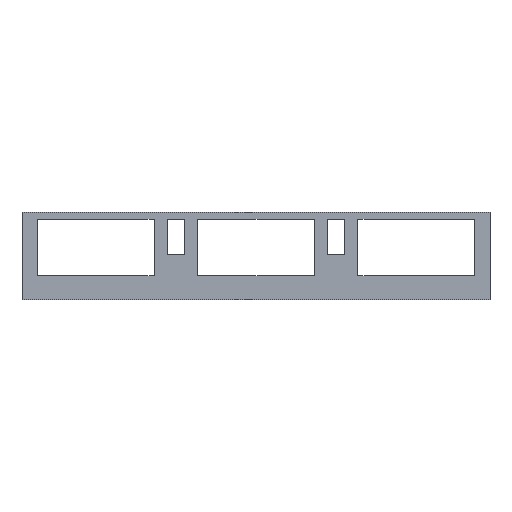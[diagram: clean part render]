
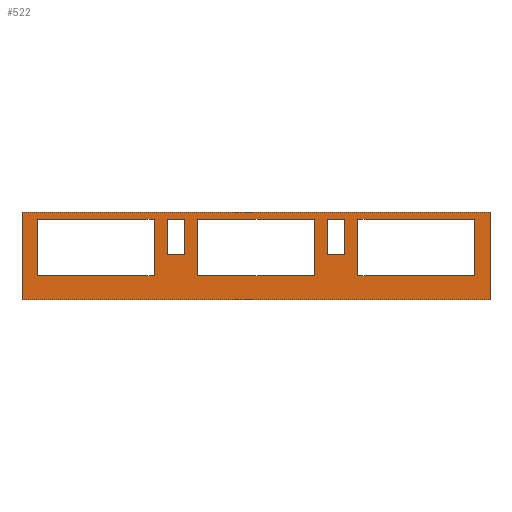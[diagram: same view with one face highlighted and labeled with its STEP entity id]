
A CAD part, top view. The second image highlights one B-rep face of the part: STEP entity #522.
In plain terms, the highlighted planar face has unit normal (0, 0, 1).
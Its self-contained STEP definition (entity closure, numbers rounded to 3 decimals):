
#15=FACE_BOUND('',#53,.T.);
#16=FACE_BOUND('',#54,.T.);
#17=FACE_BOUND('',#55,.T.);
#18=FACE_BOUND('',#56,.T.);
#19=FACE_BOUND('',#57,.T.);
#26=FACE_OUTER_BOUND('',#52,.T.);
#52=EDGE_LOOP('',(#355,#356,#357,#358));
#53=EDGE_LOOP('',(#359,#360,#361,#362));
#54=EDGE_LOOP('',(#363,#364,#365,#366));
#55=EDGE_LOOP('',(#367,#368,#369,#370));
#56=EDGE_LOOP('',(#371,#372,#373,#374));
#57=EDGE_LOOP('',(#375,#376,#377,#378));
#87=LINE('',#717,#159);
#91=LINE('',#725,#163);
#92=LINE('',#727,#164);
#93=LINE('',#728,#165);
#94=LINE('',#731,#166);
#95=LINE('',#733,#167);
#96=LINE('',#735,#168);
#97=LINE('',#736,#169);
#98=LINE('',#739,#170);
#99=LINE('',#741,#171);
#100=LINE('',#743,#172);
#101=LINE('',#744,#173);
#102=LINE('',#747,#174);
#103=LINE('',#749,#175);
#104=LINE('',#751,#176);
#105=LINE('',#752,#177);
#106=LINE('',#755,#178);
#107=LINE('',#757,#179);
#108=LINE('',#759,#180);
#109=LINE('',#760,#181);
#110=LINE('',#763,#182);
#111=LINE('',#765,#183);
#112=LINE('',#767,#184);
#113=LINE('',#768,#185);
#159=VECTOR('',#591,10.);
#163=VECTOR('',#597,10.);
#164=VECTOR('',#598,10.);
#165=VECTOR('',#599,10.);
#166=VECTOR('',#600,10.);
#167=VECTOR('',#601,10.);
#168=VECTOR('',#602,10.);
#169=VECTOR('',#603,10.);
#170=VECTOR('',#604,10.);
#171=VECTOR('',#605,10.);
#172=VECTOR('',#606,10.);
#173=VECTOR('',#607,10.);
#174=VECTOR('',#608,10.);
#175=VECTOR('',#609,10.);
#176=VECTOR('',#610,10.);
#177=VECTOR('',#611,10.);
#178=VECTOR('',#612,10.);
#179=VECTOR('',#613,10.);
#180=VECTOR('',#614,10.);
#181=VECTOR('',#615,10.);
#182=VECTOR('',#616,10.);
#183=VECTOR('',#617,10.);
#184=VECTOR('',#618,10.);
#185=VECTOR('',#619,10.);
#231=VERTEX_POINT('',#715);
#232=VERTEX_POINT('',#716);
#235=VERTEX_POINT('',#724);
#236=VERTEX_POINT('',#726);
#237=VERTEX_POINT('',#729);
#238=VERTEX_POINT('',#730);
#239=VERTEX_POINT('',#732);
#240=VERTEX_POINT('',#734);
#241=VERTEX_POINT('',#737);
#242=VERTEX_POINT('',#738);
#243=VERTEX_POINT('',#740);
#244=VERTEX_POINT('',#742);
#245=VERTEX_POINT('',#745);
#246=VERTEX_POINT('',#746);
#247=VERTEX_POINT('',#748);
#248=VERTEX_POINT('',#750);
#249=VERTEX_POINT('',#753);
#250=VERTEX_POINT('',#754);
#251=VERTEX_POINT('',#756);
#252=VERTEX_POINT('',#758);
#253=VERTEX_POINT('',#761);
#254=VERTEX_POINT('',#762);
#255=VERTEX_POINT('',#764);
#256=VERTEX_POINT('',#766);
#279=EDGE_CURVE('',#231,#232,#87,.T.);
#283=EDGE_CURVE('',#232,#235,#91,.T.);
#284=EDGE_CURVE('',#235,#236,#92,.T.);
#285=EDGE_CURVE('',#236,#231,#93,.T.);
#286=EDGE_CURVE('',#237,#238,#94,.T.);
#287=EDGE_CURVE('',#238,#239,#95,.T.);
#288=EDGE_CURVE('',#239,#240,#96,.T.);
#289=EDGE_CURVE('',#240,#237,#97,.T.);
#290=EDGE_CURVE('',#241,#242,#98,.T.);
#291=EDGE_CURVE('',#242,#243,#99,.T.);
#292=EDGE_CURVE('',#243,#244,#100,.T.);
#293=EDGE_CURVE('',#244,#241,#101,.T.);
#294=EDGE_CURVE('',#245,#246,#102,.T.);
#295=EDGE_CURVE('',#246,#247,#103,.T.);
#296=EDGE_CURVE('',#247,#248,#104,.T.);
#297=EDGE_CURVE('',#248,#245,#105,.T.);
#298=EDGE_CURVE('',#249,#250,#106,.T.);
#299=EDGE_CURVE('',#250,#251,#107,.T.);
#300=EDGE_CURVE('',#251,#252,#108,.T.);
#301=EDGE_CURVE('',#252,#249,#109,.T.);
#302=EDGE_CURVE('',#253,#254,#110,.T.);
#303=EDGE_CURVE('',#254,#255,#111,.T.);
#304=EDGE_CURVE('',#255,#256,#112,.T.);
#305=EDGE_CURVE('',#256,#253,#113,.T.);
#355=ORIENTED_EDGE('',*,*,#279,.T.);
#356=ORIENTED_EDGE('',*,*,#283,.T.);
#357=ORIENTED_EDGE('',*,*,#284,.T.);
#358=ORIENTED_EDGE('',*,*,#285,.T.);
#359=ORIENTED_EDGE('',*,*,#286,.T.);
#360=ORIENTED_EDGE('',*,*,#287,.T.);
#361=ORIENTED_EDGE('',*,*,#288,.T.);
#362=ORIENTED_EDGE('',*,*,#289,.T.);
#363=ORIENTED_EDGE('',*,*,#290,.T.);
#364=ORIENTED_EDGE('',*,*,#291,.T.);
#365=ORIENTED_EDGE('',*,*,#292,.T.);
#366=ORIENTED_EDGE('',*,*,#293,.T.);
#367=ORIENTED_EDGE('',*,*,#294,.T.);
#368=ORIENTED_EDGE('',*,*,#295,.T.);
#369=ORIENTED_EDGE('',*,*,#296,.T.);
#370=ORIENTED_EDGE('',*,*,#297,.T.);
#371=ORIENTED_EDGE('',*,*,#298,.T.);
#372=ORIENTED_EDGE('',*,*,#299,.T.);
#373=ORIENTED_EDGE('',*,*,#300,.T.);
#374=ORIENTED_EDGE('',*,*,#301,.T.);
#375=ORIENTED_EDGE('',*,*,#302,.T.);
#376=ORIENTED_EDGE('',*,*,#303,.T.);
#377=ORIENTED_EDGE('',*,*,#304,.T.);
#378=ORIENTED_EDGE('',*,*,#305,.T.);
#496=PLANE('',#562);
#522=ADVANCED_FACE('',(#26,#15,#16,#17,#18,#19),#496,.T.);
#562=AXIS2_PLACEMENT_3D('',#723,#595,#596);
#591=DIRECTION('',(0.,1.,0.));
#595=DIRECTION('center_axis',(0.,0.,
1.));
#596=DIRECTION('ref_axis',(1.,0.,0.));
#597=DIRECTION('',(-1.,0.,0.));
#598=DIRECTION('',(0.,-1.,0.));
#599=DIRECTION('',(1.,0.,0.));
#600=DIRECTION('',(-1.,0.,0.));
#601=DIRECTION('',(0.,1.,0.));
#602=DIRECTION('',(1.,0.,0.));
#603=DIRECTION('',(0.,-1.,0.));
#604=DIRECTION('',(-1.,0.,0.));
#605=DIRECTION('',(0.,1.,0.));
#606=DIRECTION('',(1.,0.,0.));
#607=DIRECTION('',(0.,-1.,0.));
#608=DIRECTION('',(0.,-1.,0.));
#609=DIRECTION('',(-1.,0.,0.));
#610=DIRECTION('',(0.,1.,0.));
#611=DIRECTION('',(1.,0.,0.));
#612=DIRECTION('',(0.,1.,0.));
#613=DIRECTION('',(1.,0.,0.));
#614=DIRECTION('',(0.,-1.,0.));
#615=DIRECTION('',(-1.,0.,0.));
#616=DIRECTION('',(0.,1.,0.));
#617=DIRECTION('',(1.,0.,0.));
#618=DIRECTION('',(0.,-1.,0.));
#619=DIRECTION('',(-1.,0.,0.));
#715=CARTESIAN_POINT('',(64.167,32.893,2.415));
#716=CARTESIAN_POINT('',(64.167,82.609,2.415));
#717=CARTESIAN_POINT('',(64.167,36.322,2.415));
#723=CARTESIAN_POINT('Origin',(-68.584,39.751,2.415));
#724=CARTESIAN_POINT('',(-201.332,82.609,2.415));
#725=CARTESIAN_POINT('',(64.417,82.609,2.415));
#726=CARTESIAN_POINT('',(-201.332,32.893,2.415));
#727=CARTESIAN_POINT('',(-201.332,61.18,2.415));
#728=CARTESIAN_POINT('',(-206.583,32.893,2.415));
#729=CARTESIAN_POINT('',(-126.433,46.609,2.415));
#730=CARTESIAN_POINT('',(-192.583,46.609,2.415));
#731=CARTESIAN_POINT('',(69.414,46.609,2.415));
#732=CARTESIAN_POINT('',(-192.583,78.609,2.415));
#733=CARTESIAN_POINT('',(-192.583,46.609,2.415));
#734=CARTESIAN_POINT('',(-126.433,78.609,2.415));
#735=CARTESIAN_POINT('',(-192.583,78.609,2.415));
#736=CARTESIAN_POINT('',(-126.433,48.909,2.415));
#737=CARTESIAN_POINT('',(55.417,46.609,2.415));
#738=CARTESIAN_POINT('',(-10.733,46.609,2.415));
#739=CARTESIAN_POINT('',(69.414,46.609,2.415));
#740=CARTESIAN_POINT('',(-10.733,78.609,2.415));
#741=CARTESIAN_POINT('',(-10.733,48.909,2.415));
#742=CARTESIAN_POINT('',(55.417,78.609,2.415));
#743=CARTESIAN_POINT('',(-192.583,78.609,2.415));
#744=CARTESIAN_POINT('',(55.417,78.609,2.415));
#745=CARTESIAN_POINT('',(-109.033,78.609,2.415));
#746=CARTESIAN_POINT('',(-109.033,58.609,2.415));
#747=CARTESIAN_POINT('',(-109.033,80.609,2.415));
#748=CARTESIAN_POINT('',(-119.033,58.609,2.415));
#749=CARTESIAN_POINT('',(-109.033,58.609,2.415));
#750=CARTESIAN_POINT('',(-119.033,78.609,2.415));
#751=CARTESIAN_POINT('',(-119.033,58.609,2.415));
#752=CARTESIAN_POINT('',(-192.583,78.609,2.415));
#753=CARTESIAN_POINT('',(-28.133,58.609,2.415));
#754=CARTESIAN_POINT('',(-28.133,78.609,2.415));
#755=CARTESIAN_POINT('',(-28.133,58.609,2.415));
#756=CARTESIAN_POINT('',(-18.133,78.609,2.415));
#757=CARTESIAN_POINT('',(-192.583,78.609,2.415));
#758=CARTESIAN_POINT('',(-18.133,58.609,2.415));
#759=CARTESIAN_POINT('',(-18.133,80.609,2.415));
#760=CARTESIAN_POINT('',(-18.133,58.609,2.415));
#761=CARTESIAN_POINT('',(-101.633,46.609,2.415));
#762=CARTESIAN_POINT('',(-101.633,78.609,2.415));
#763=CARTESIAN_POINT('',(-101.633,46.609,2.415));
#764=CARTESIAN_POINT('',(-35.533,78.609,2.415));
#765=CARTESIAN_POINT('',(-192.583,78.609,2.415));
#766=CARTESIAN_POINT('',(-35.533,46.609,2.415));
#767=CARTESIAN_POINT('',(-35.533,48.909,2.415));
#768=CARTESIAN_POINT('',(69.414,46.609,2.415));
